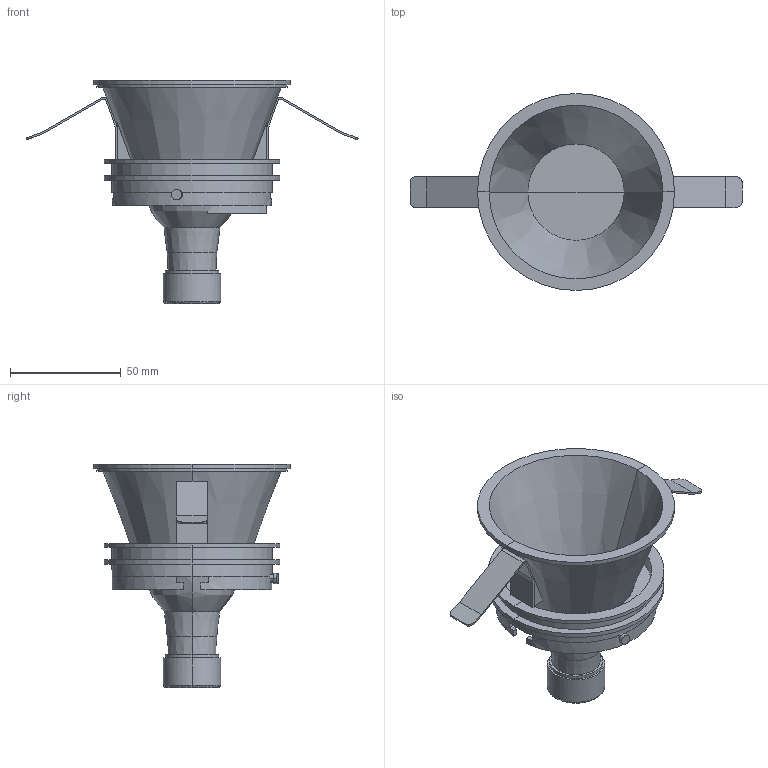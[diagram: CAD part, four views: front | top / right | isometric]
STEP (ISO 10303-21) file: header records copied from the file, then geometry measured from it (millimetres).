
FILE_DESCRIPTION(/* description */ (''),/* implementation_level */ '2;1');
FILE_NAME(/* name */ 'C:\Users\FrancoSartori\Documents\FARO\01_En Proceso\00_FRESH\03_Publicación\02100502.stp',/* time_stamp */ '2021-06-23T13:16:43+02:00',/* author */ ('FrancoSartori'),/* organization */ (''),/* preprocessor_version */ 'ST-DEVELOPER v18.1',/* originating_system */ 'AutoCAD Mechanical',/* authorisation */ '');
FILE_SCHEMA (('AUTOMOTIVE_DESIGN { 1 0 10303 214 3 1 1 }'));
Length unit declared in the file: millimetre
Products named in the file (2): Product; 02100501 02100502 02100503 - Lamp-418204-_3D_
Assembly tree (1 placements, depth 2):
  Product
    02100501 02100502 02100503 - Lamp-418204-_3D_
Bounding box: 150.04 x 89 x 100.78 mm (x, y, z)
Volume: 79905.6 mm3; surface area: 56379.5 mm2
Topology: 14 solids, 14 shells, 186 faces, 408 edges, 246 vertices
Faces by surface type: plane 112, cylinder 54, cone 14, torus 4, bspline 2
Entity records: 5470 total; most frequent: CARTESIAN_POINT 1272, DIRECTION 908, ORIENTED_EDGE 816, EDGE_CURVE 408, AXIS2_PLACEMENT_3D 337, VERTEX_POINT 246, LINE 234, VECTOR 234
